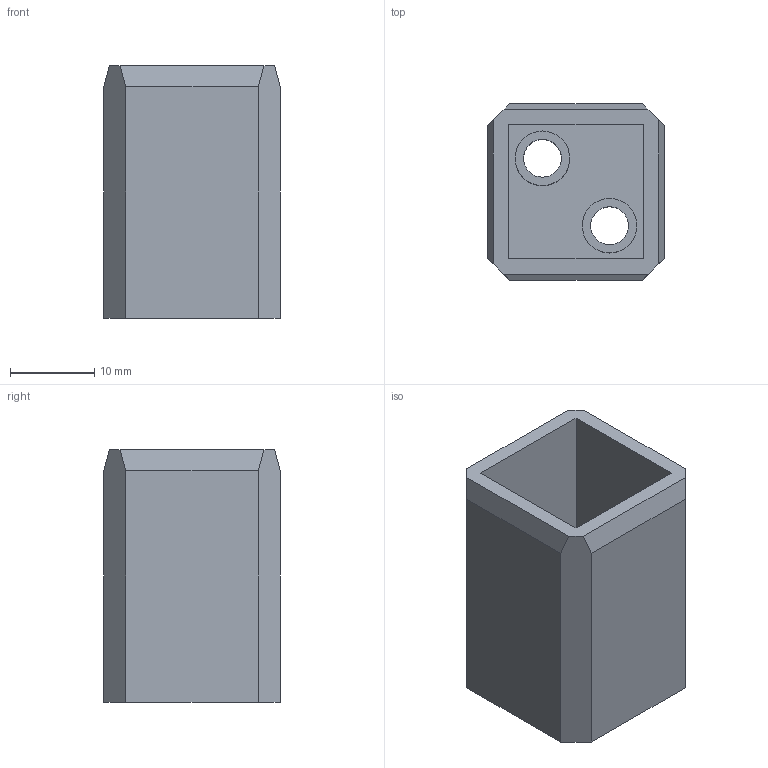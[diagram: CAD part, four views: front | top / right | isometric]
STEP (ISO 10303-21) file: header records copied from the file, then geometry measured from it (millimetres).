
FILE_DESCRIPTION (( 'STEP AP214' ), '1' );
FILE_NAME ('L15501.step', '2024-12-03T16:18:41', ( '' ), ( '' ), 'SwSTEP 2.0', 'SolidWorks 2023', '' );
FILE_SCHEMA (( 'AUTOMOTIVE_DESIGN' ));
Length unit declared in the file: millimetre
Products named in the file (1): L15501
Bounding box: 21 x 21 x 30 mm (x, y, z)
Volume: 5987.6 mm3; surface area: 5834.5 mm2
Topology: 1 solids, 1 shells, 25 faces, 60 edges, 40 vertices
Faces by surface type: plane 21, cylinder 4
Full cylindrical faces by diameter (mm): 4.5 x2, 6.5 x2
Entity records: 733 total; most frequent: CARTESIAN_POINT 122, DIRECTION 116, ORIENTED_EDGE 112, EDGE_CURVE 56, LINE 48, VECTOR 48, VERTEX_POINT 40, EDGE_LOOP 36
